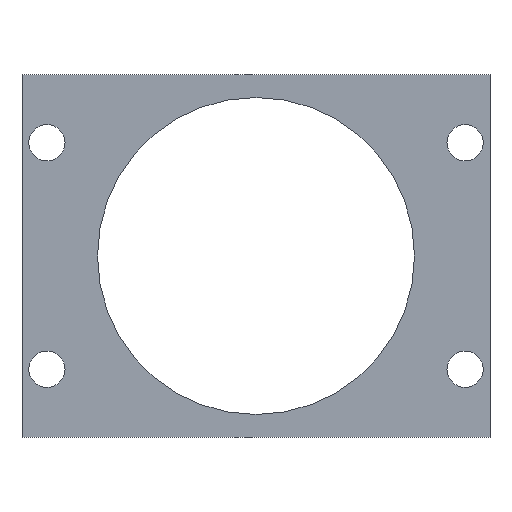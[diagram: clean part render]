
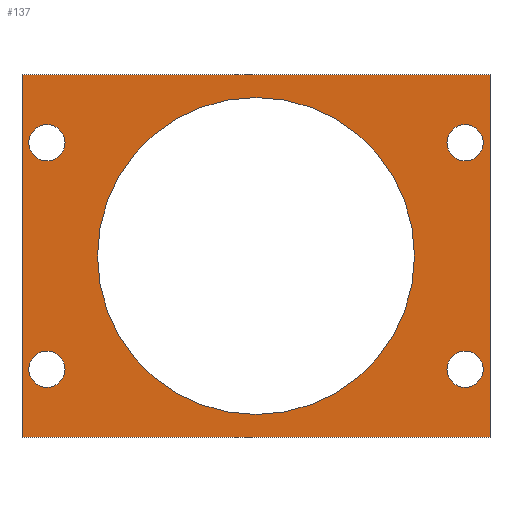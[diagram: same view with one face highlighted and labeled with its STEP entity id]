
A CAD part, front view. The second image highlights one B-rep face of the part: STEP entity #137.
In plain terms, the highlighted planar face has unit normal (0, -1, 0).
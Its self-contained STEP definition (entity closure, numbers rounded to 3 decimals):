
#21 = EDGE_CURVE('',#22,#24,#26,.T.);
#22 = VERTEX_POINT('',#23);
#23 = CARTESIAN_POINT('',(-15.5,24.,82.));
#24 = VERTEX_POINT('',#25);
#25 = CARTESIAN_POINT('',(-15.5,24.,106.));
#26 = SURFACE_CURVE('',#27,(#31,#43),.PCURVE_S1.);
#27 = LINE('',#28,#29);
#28 = CARTESIAN_POINT('',(-15.5,24.,82.));
#29 = VECTOR('',#30,1.);
#30 = DIRECTION('',(0.,0.,1.));
#31 = PCURVE('',#32,#37);
#32 = PLANE('',#33);
#33 = AXIS2_PLACEMENT_3D('',#34,#35,#36);
#34 = CARTESIAN_POINT('',(-15.5,24.,82.));
#35 = DIRECTION('',(1.,0.,0.));
#36 = DIRECTION('',(0.,0.,1.));
#37 = DEFINITIONAL_REPRESENTATION('',(#38),#42);
#38 = LINE('',#39,#40);
#39 = CARTESIAN_POINT('',(0.,0.));
#40 = VECTOR('',#41,1.);
#41 = DIRECTION('',(1.,0.));
#42 = ( GEOMETRIC_REPRESENTATION_CONTEXT(2) 
PARAMETRIC_REPRESENTATION_CONTEXT() REPRESENTATION_CONTEXT('2D SPACE',''
  ) );
#43 = PCURVE('',#44,#49);
#44 = PLANE('',#45);
#45 = AXIS2_PLACEMENT_3D('',#46,#47,#48);
#46 = CARTESIAN_POINT('',(-15.5,24.,82.));
#47 = DIRECTION('',(0.,1.,0.));
#48 = DIRECTION('',(0.,0.,1.));
#49 = DEFINITIONAL_REPRESENTATION('',(#50),#54);
#50 = LINE('',#51,#52);
#51 = CARTESIAN_POINT('',(0.,0.));
#52 = VECTOR('',#53,1.);
#53 = DIRECTION('',(1.,0.));
#54 = ( GEOMETRIC_REPRESENTATION_CONTEXT(2) 
PARAMETRIC_REPRESENTATION_CONTEXT() REPRESENTATION_CONTEXT('2D SPACE',''
  ) );
#72 = PLANE('',#73);
#73 = AXIS2_PLACEMENT_3D('',#74,#75,#76);
#74 = CARTESIAN_POINT('',(-15.5,24.,82.));
#75 = DIRECTION('',(0.,0.,1.));
#76 = DIRECTION('',(1.,0.,0.));
#126 = PLANE('',#127);
#127 = AXIS2_PLACEMENT_3D('',#128,#129,#130);
#128 = CARTESIAN_POINT('',(-15.5,24.,106.));
#129 = DIRECTION('',(0.,0.,1.));
#130 = DIRECTION('',(1.,0.,0.));
#137 = ADVANCED_FACE('',(#138,#213,#244,#275,#306,#337),#44,.F.);
#138 = FACE_BOUND('',#139,.F.);
#139 = EDGE_LOOP('',(#140,#163,#164,#187));
#140 = ORIENTED_EDGE('',*,*,#141,.F.);
#141 = EDGE_CURVE('',#22,#142,#144,.T.);
#142 = VERTEX_POINT('',#143);
#143 = CARTESIAN_POINT('',(15.5,24.,82.));
#144 = SURFACE_CURVE('',#145,(#149,#156),.PCURVE_S1.);
#145 = LINE('',#146,#147);
#146 = CARTESIAN_POINT('',(-15.5,24.,82.));
#147 = VECTOR('',#148,1.);
#148 = DIRECTION('',(1.,0.,0.));
#149 = PCURVE('',#44,#150);
#150 = DEFINITIONAL_REPRESENTATION('',(#151),#155);
#151 = LINE('',#152,#153);
#152 = CARTESIAN_POINT('',(0.,0.));
#153 = VECTOR('',#154,1.);
#154 = DIRECTION('',(0.,1.));
#155 = ( GEOMETRIC_REPRESENTATION_CONTEXT(2) 
PARAMETRIC_REPRESENTATION_CONTEXT() REPRESENTATION_CONTEXT('2D SPACE',''
  ) );
#156 = PCURVE('',#72,#157);
#157 = DEFINITIONAL_REPRESENTATION('',(#158),#162);
#158 = LINE('',#159,#160);
#159 = CARTESIAN_POINT('',(0.,0.));
#160 = VECTOR('',#161,1.);
#161 = DIRECTION('',(1.,0.));
#162 = ( GEOMETRIC_REPRESENTATION_CONTEXT(2) 
PARAMETRIC_REPRESENTATION_CONTEXT() REPRESENTATION_CONTEXT('2D SPACE',''
  ) );
#163 = ORIENTED_EDGE('',*,*,#21,.T.);
#164 = ORIENTED_EDGE('',*,*,#165,.T.);
#165 = EDGE_CURVE('',#24,#166,#168,.T.);
#166 = VERTEX_POINT('',#167);
#167 = CARTESIAN_POINT('',(15.5,24.,106.));
#168 = SURFACE_CURVE('',#169,(#173,#180),.PCURVE_S1.);
#169 = LINE('',#170,#171);
#170 = CARTESIAN_POINT('',(-15.5,24.,106.));
#171 = VECTOR('',#172,1.);
#172 = DIRECTION('',(1.,0.,0.));
#173 = PCURVE('',#44,#174);
#174 = DEFINITIONAL_REPRESENTATION('',(#175),#179);
#175 = LINE('',#176,#177);
#176 = CARTESIAN_POINT('',(24.,0.));
#177 = VECTOR('',#178,1.);
#178 = DIRECTION('',(0.,1.));
#179 = ( GEOMETRIC_REPRESENTATION_CONTEXT(2) 
PARAMETRIC_REPRESENTATION_CONTEXT() REPRESENTATION_CONTEXT('2D SPACE',''
  ) );
#180 = PCURVE('',#126,#181);
#181 = DEFINITIONAL_REPRESENTATION('',(#182),#186);
#182 = LINE('',#183,#184);
#183 = CARTESIAN_POINT('',(0.,0.));
#184 = VECTOR('',#185,1.);
#185 = DIRECTION('',(1.,0.));
#186 = ( GEOMETRIC_REPRESENTATION_CONTEXT(2) 
PARAMETRIC_REPRESENTATION_CONTEXT() REPRESENTATION_CONTEXT('2D SPACE',''
  ) );
#187 = ORIENTED_EDGE('',*,*,#188,.F.);
#188 = EDGE_CURVE('',#142,#166,#189,.T.);
#189 = SURFACE_CURVE('',#190,(#194,#201),.PCURVE_S1.);
#190 = LINE('',#191,#192);
#191 = CARTESIAN_POINT('',(15.5,24.,82.));
#192 = VECTOR('',#193,1.);
#193 = DIRECTION('',(0.,0.,1.));
#194 = PCURVE('',#44,#195);
#195 = DEFINITIONAL_REPRESENTATION('',(#196),#200);
#196 = LINE('',#197,#198);
#197 = CARTESIAN_POINT('',(0.,31.));
#198 = VECTOR('',#199,1.);
#199 = DIRECTION('',(1.,0.));
#200 = ( GEOMETRIC_REPRESENTATION_CONTEXT(2) 
PARAMETRIC_REPRESENTATION_CONTEXT() REPRESENTATION_CONTEXT('2D SPACE',''
  ) );
#201 = PCURVE('',#202,#207);
#202 = PLANE('',#203);
#203 = AXIS2_PLACEMENT_3D('',#204,#205,#206);
#204 = CARTESIAN_POINT('',(15.5,24.,82.));
#205 = DIRECTION('',(1.,0.,0.));
#206 = DIRECTION('',(0.,0.,1.));
#207 = DEFINITIONAL_REPRESENTATION('',(#208),#212);
#208 = LINE('',#209,#210);
#209 = CARTESIAN_POINT('',(0.,0.));
#210 = VECTOR('',#211,1.);
#211 = DIRECTION('',(1.,0.));
#212 = ( GEOMETRIC_REPRESENTATION_CONTEXT(2) 
PARAMETRIC_REPRESENTATION_CONTEXT() REPRESENTATION_CONTEXT('2D SPACE',''
  ) );
#213 = FACE_BOUND('',#214,.F.);
#214 = EDGE_LOOP('',(#215));
#215 = ORIENTED_EDGE('',*,*,#216,.F.);
#216 = EDGE_CURVE('',#217,#217,#219,.T.);
#217 = VERTEX_POINT('',#218);
#218 = CARTESIAN_POINT('',(-13.85,24.,87.7));
#219 = SURFACE_CURVE('',#220,(#225,#232),.PCURVE_S1.);
#220 = CIRCLE('',#221,1.2);
#221 = AXIS2_PLACEMENT_3D('',#222,#223,#224);
#222 = CARTESIAN_POINT('',(-13.85,24.,86.5));
#223 = DIRECTION('',(0.,1.,0.));
#224 = DIRECTION('',(0.,-0.,1.));
#225 = PCURVE('',#44,#226);
#226 = DEFINITIONAL_REPRESENTATION('',(#227),#231);
#227 = CIRCLE('',#228,1.2);
#228 = AXIS2_PLACEMENT_2D('',#229,#230);
#229 = CARTESIAN_POINT('',(4.5,1.65));
#230 = DIRECTION('',(1.,0.));
#231 = ( GEOMETRIC_REPRESENTATION_CONTEXT(2) 
PARAMETRIC_REPRESENTATION_CONTEXT() REPRESENTATION_CONTEXT('2D SPACE',''
  ) );
#232 = PCURVE('',#233,#238);
#233 = CYLINDRICAL_SURFACE('',#234,1.2);
#234 = AXIS2_PLACEMENT_3D('',#235,#236,#237);
#235 = CARTESIAN_POINT('',(-13.85,23.5,86.5));
#236 = DIRECTION('',(0.,1.,0.));
#237 = DIRECTION('',(0.,-0.,1.));
#238 = DEFINITIONAL_REPRESENTATION('',(#239),#243);
#239 = LINE('',#240,#241);
#240 = CARTESIAN_POINT('',(0.,0.5));
#241 = VECTOR('',#242,1.);
#242 = DIRECTION('',(1.,0.));
#243 = ( GEOMETRIC_REPRESENTATION_CONTEXT(2) 
PARAMETRIC_REPRESENTATION_CONTEXT() REPRESENTATION_CONTEXT('2D SPACE',''
  ) );
#244 = FACE_BOUND('',#245,.F.);
#245 = EDGE_LOOP('',(#246));
#246 = ORIENTED_EDGE('',*,*,#247,.F.);
#247 = EDGE_CURVE('',#248,#248,#250,.T.);
#248 = VERTEX_POINT('',#249);
#249 = CARTESIAN_POINT('',(-13.85,24.,102.7));
#250 = SURFACE_CURVE('',#251,(#256,#263),.PCURVE_S1.);
#251 = CIRCLE('',#252,1.2);
#252 = AXIS2_PLACEMENT_3D('',#253,#254,#255);
#253 = CARTESIAN_POINT('',(-13.85,24.,101.5));
#254 = DIRECTION('',(0.,1.,0.));
#255 = DIRECTION('',(0.,-0.,1.));
#256 = PCURVE('',#44,#257);
#257 = DEFINITIONAL_REPRESENTATION('',(#258),#262);
#258 = CIRCLE('',#259,1.2);
#259 = AXIS2_PLACEMENT_2D('',#260,#261);
#260 = CARTESIAN_POINT('',(19.5,1.65));
#261 = DIRECTION('',(1.,0.));
#262 = ( GEOMETRIC_REPRESENTATION_CONTEXT(2) 
PARAMETRIC_REPRESENTATION_CONTEXT() REPRESENTATION_CONTEXT('2D SPACE',''
  ) );
#263 = PCURVE('',#264,#269);
#264 = CYLINDRICAL_SURFACE('',#265,1.2);
#265 = AXIS2_PLACEMENT_3D('',#266,#267,#268);
#266 = CARTESIAN_POINT('',(-13.85,23.5,101.5));
#267 = DIRECTION('',(0.,1.,0.));
#268 = DIRECTION('',(0.,-0.,1.));
#269 = DEFINITIONAL_REPRESENTATION('',(#270),#274);
#270 = LINE('',#271,#272);
#271 = CARTESIAN_POINT('',(0.,0.5));
#272 = VECTOR('',#273,1.);
#273 = DIRECTION('',(1.,0.));
#274 = ( GEOMETRIC_REPRESENTATION_CONTEXT(2) 
PARAMETRIC_REPRESENTATION_CONTEXT() REPRESENTATION_CONTEXT('2D SPACE',''
  ) );
#275 = FACE_BOUND('',#276,.F.);
#276 = EDGE_LOOP('',(#277));
#277 = ORIENTED_EDGE('',*,*,#278,.F.);
#278 = EDGE_CURVE('',#279,#279,#281,.T.);
#279 = VERTEX_POINT('',#280);
#280 = CARTESIAN_POINT('',(0.,24.,104.5));
#281 = SURFACE_CURVE('',#282,(#287,#294),.PCURVE_S1.);
#282 = CIRCLE('',#283,10.5);
#283 = AXIS2_PLACEMENT_3D('',#284,#285,#286);
#284 = CARTESIAN_POINT('',(0.,24.,94.));
#285 = DIRECTION('',(0.,1.,0.));
#286 = DIRECTION('',(0.,-0.,1.));
#287 = PCURVE('',#44,#288);
#288 = DEFINITIONAL_REPRESENTATION('',(#289),#293);
#289 = CIRCLE('',#290,10.5);
#290 = AXIS2_PLACEMENT_2D('',#291,#292);
#291 = CARTESIAN_POINT('',(12.,15.5));
#292 = DIRECTION('',(1.,0.));
#293 = ( GEOMETRIC_REPRESENTATION_CONTEXT(2) 
PARAMETRIC_REPRESENTATION_CONTEXT() REPRESENTATION_CONTEXT('2D SPACE',''
  ) );
#294 = PCURVE('',#295,#300);
#295 = CYLINDRICAL_SURFACE('',#296,10.5);
#296 = AXIS2_PLACEMENT_3D('',#297,#298,#299);
#297 = CARTESIAN_POINT('',(0.,23.5,94.));
#298 = DIRECTION('',(0.,1.,0.));
#299 = DIRECTION('',(0.,-0.,1.));
#300 = DEFINITIONAL_REPRESENTATION('',(#301),#305);
#301 = LINE('',#302,#303);
#302 = CARTESIAN_POINT('',(0.,0.5));
#303 = VECTOR('',#304,1.);
#304 = DIRECTION('',(1.,0.));
#305 = ( GEOMETRIC_REPRESENTATION_CONTEXT(2) 
PARAMETRIC_REPRESENTATION_CONTEXT() REPRESENTATION_CONTEXT('2D SPACE',''
  ) );
#306 = FACE_BOUND('',#307,.F.);
#307 = EDGE_LOOP('',(#308));
#308 = ORIENTED_EDGE('',*,*,#309,.F.);
#309 = EDGE_CURVE('',#310,#310,#312,.T.);
#310 = VERTEX_POINT('',#311);
#311 = CARTESIAN_POINT('',(13.85,24.,87.7));
#312 = SURFACE_CURVE('',#313,(#318,#325),.PCURVE_S1.);
#313 = CIRCLE('',#314,1.2);
#314 = AXIS2_PLACEMENT_3D('',#315,#316,#317);
#315 = CARTESIAN_POINT('',(13.85,24.,86.5));
#316 = DIRECTION('',(0.,1.,0.));
#317 = DIRECTION('',(0.,-0.,1.));
#318 = PCURVE('',#44,#319);
#319 = DEFINITIONAL_REPRESENTATION('',(#320),#324);
#320 = CIRCLE('',#321,1.2);
#321 = AXIS2_PLACEMENT_2D('',#322,#323);
#322 = CARTESIAN_POINT('',(4.5,29.35));
#323 = DIRECTION('',(1.,0.));
#324 = ( GEOMETRIC_REPRESENTATION_CONTEXT(2) 
PARAMETRIC_REPRESENTATION_CONTEXT() REPRESENTATION_CONTEXT('2D SPACE',''
  ) );
#325 = PCURVE('',#326,#331);
#326 = CYLINDRICAL_SURFACE('',#327,1.2);
#327 = AXIS2_PLACEMENT_3D('',#328,#329,#330);
#328 = CARTESIAN_POINT('',(13.85,23.5,86.5));
#329 = DIRECTION('',(0.,1.,0.));
#330 = DIRECTION('',(0.,-0.,1.));
#331 = DEFINITIONAL_REPRESENTATION('',(#332),#336);
#332 = LINE('',#333,#334);
#333 = CARTESIAN_POINT('',(0.,0.5));
#334 = VECTOR('',#335,1.);
#335 = DIRECTION('',(1.,0.));
#336 = ( GEOMETRIC_REPRESENTATION_CONTEXT(2) 
PARAMETRIC_REPRESENTATION_CONTEXT() REPRESENTATION_CONTEXT('2D SPACE',''
  ) );
#337 = FACE_BOUND('',#338,.F.);
#338 = EDGE_LOOP('',(#339));
#339 = ORIENTED_EDGE('',*,*,#340,.F.);
#340 = EDGE_CURVE('',#341,#341,#343,.T.);
#341 = VERTEX_POINT('',#342);
#342 = CARTESIAN_POINT('',(13.85,24.,102.7));
#343 = SURFACE_CURVE('',#344,(#349,#356),.PCURVE_S1.);
#344 = CIRCLE('',#345,1.2);
#345 = AXIS2_PLACEMENT_3D('',#346,#347,#348);
#346 = CARTESIAN_POINT('',(13.85,24.,101.5));
#347 = DIRECTION('',(0.,1.,0.));
#348 = DIRECTION('',(0.,-0.,1.));
#349 = PCURVE('',#44,#350);
#350 = DEFINITIONAL_REPRESENTATION('',(#351),#355);
#351 = CIRCLE('',#352,1.2);
#352 = AXIS2_PLACEMENT_2D('',#353,#354);
#353 = CARTESIAN_POINT('',(19.5,29.35));
#354 = DIRECTION('',(1.,0.));
#355 = ( GEOMETRIC_REPRESENTATION_CONTEXT(2) 
PARAMETRIC_REPRESENTATION_CONTEXT() REPRESENTATION_CONTEXT('2D SPACE',''
  ) );
#356 = PCURVE('',#357,#362);
#357 = CYLINDRICAL_SURFACE('',#358,1.2);
#358 = AXIS2_PLACEMENT_3D('',#359,#360,#361);
#359 = CARTESIAN_POINT('',(13.85,23.5,101.5));
#360 = DIRECTION('',(0.,1.,0.));
#361 = DIRECTION('',(0.,-0.,1.));
#362 = DEFINITIONAL_REPRESENTATION('',(#363),#367);
#363 = LINE('',#364,#365);
#364 = CARTESIAN_POINT('',(0.,0.5));
#365 = VECTOR('',#366,1.);
#366 = DIRECTION('',(1.,0.));
#367 = ( GEOMETRIC_REPRESENTATION_CONTEXT(2) 
PARAMETRIC_REPRESENTATION_CONTEXT() REPRESENTATION_CONTEXT('2D SPACE',''
  ) );
